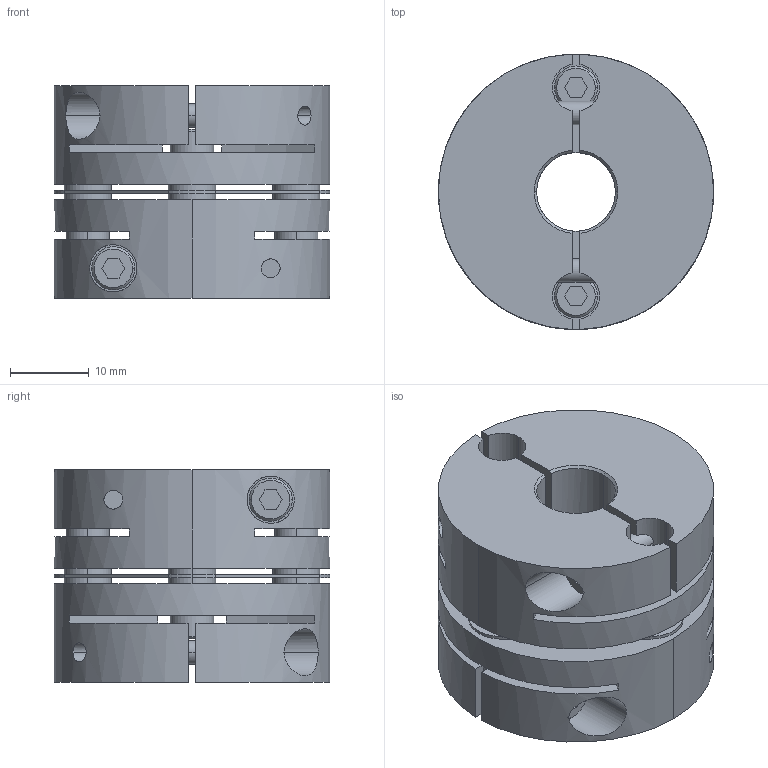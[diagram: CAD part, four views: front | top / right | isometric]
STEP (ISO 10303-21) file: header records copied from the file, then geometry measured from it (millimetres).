
FILE_DESCRIPTION((''),'2;1');
FILE_NAME('LAS-35C-10×11.stp','2011-08-10T16:37:27',(''),(''),'AutoCAD STEP 2000i','AutoCAD 2000i',', , ');
FILE_SCHEMA(('CONFIG_CONTROL_DESIGN'));
Length unit declared in the file: millimetre
Products named in the file (5): LAS-35C-8×8; 忣兜1; LA-3502-D08-1; LA-3502-D08; LAS35-ITA
Assembly tree (4 placements, depth 2):
  LAS-35C-8×8
    忣兜1
    LA-3502-D08-1
    LA-3502-D08
    LAS35-ITA
Bounding box: 35 x 35 x 27 mm (x, y, z)
Volume: 19618.5 mm3; surface area: 12067.5 mm2
Topology: 1 solids, 1 shells, 236 faces, 624 edges, 408 vertices
Faces by surface type: plane 112, cylinder 96, cone 28
Entity records: 8143 total; most frequent: CARTESIAN_POINT 1949, DIRECTION 1302, ORIENTED_EDGE 1248, EDGE_CURVE 624, AXIS2_PLACEMENT_3D 477, VERTEX_POINT 408, VECTOR 348, LINE 348
